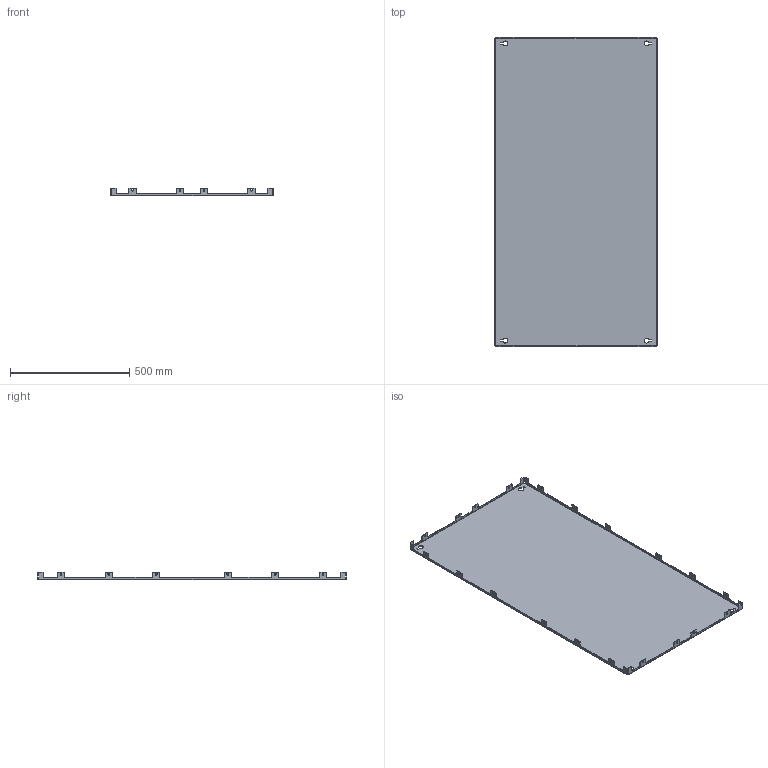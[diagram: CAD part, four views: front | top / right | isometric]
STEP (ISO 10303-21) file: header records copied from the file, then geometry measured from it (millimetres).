
FILE_DESCRIPTION (( 'STEP AP203' ), '1' );
FILE_NAME ('R5LPS1408.STEP', '2021-12-17T12:51:57', ( '' ), ( '' ), 'SwSTEP 2.0', 'SolidWorks 2020', '' );
FILE_SCHEMA (( 'CONFIG_CONTROL_DESIGN' ));
Length unit declared in the file: millimetre
Products named in the file (1): R5LPS1408
Bounding box: 684 x 1298 x 32.5 mm (x, y, z)
Volume: 1862031.7 mm3; surface area: 1874151.3 mm2
Topology: 1 solids, 1 shells, 380 faces, 1102 edges, 724 vertices
Faces by surface type: plane 242, cylinder 138
Entity records: 12659 total; most frequent: CARTESIAN_POINT 2207, ORIENTED_EDGE 2204, DIRECTION 2140, EDGE_CURVE 1102, LINE 826, VECTOR 826, VERTEX_POINT 724, AXIS2_PLACEMENT_3D 657
